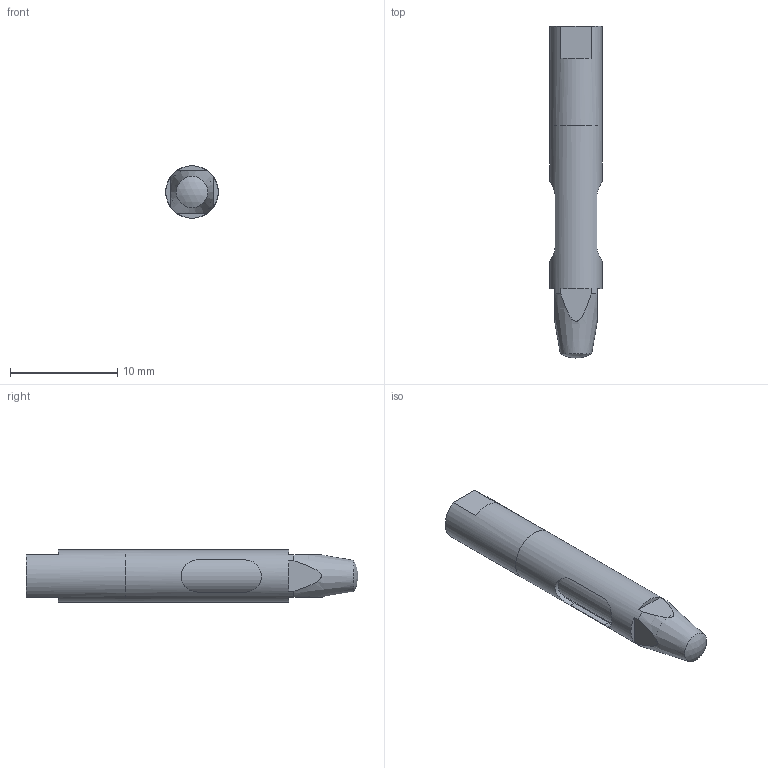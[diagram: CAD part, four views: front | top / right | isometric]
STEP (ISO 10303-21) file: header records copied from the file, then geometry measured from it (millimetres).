
FILE_DESCRIPTION(/* description */ (''),/* implementation_level */ '2;1');
FILE_NAME(/* name */ 'T:\Anwender\Praktikant\Tobias Könemund\Innengreifer\Parametrisch\G-GI005_vereinfacht.stp',/* time_stamp */ '2015-10-30T08:21:12+01:00',/* author */ ('Praktikant'),/* organization */ ('GRIP GmbH'),/* preprocessor_version */ 'ST-DEVELOPER v15.2',/* originating_system */ 'Autodesk Inventor 2014',/* authorisation */ '');
FILE_SCHEMA (('AUTOMOTIVE_DESIGN { 1 0 10303 214 3 1 1 }'));
Length unit declared in the file: millimetre
Products named in the file (3): G-GI005-2.1-1 Dorn_vereinfacht-16; G-GI005-1.1-1 Hülse_vereinfacht-03; Baugruppe_vereinfacht
Bounding box: 4.9 x 31.02 x 4.9 mm (x, y, z)
Volume: 498.4 mm3; surface area: 908.7 mm2
Topology: 2 solids, 2 shells, 33 faces, 86 edges, 57 vertices
Faces by surface type: plane 21, cylinder 9, cone 2, sphere 1
Full cylindrical faces by diameter (mm): 3 x1, 3.9 x1, 4.1 x1, 4.9 x2
Entity records: 1092 total; most frequent: CARTESIAN_POINT 300, DIRECTION 154, ORIENTED_EDGE 138, EDGE_CURVE 69, AXIS2_PLACEMENT_3D 59, VERTEX_POINT 49, EDGE_LOOP 46, LINE 36
